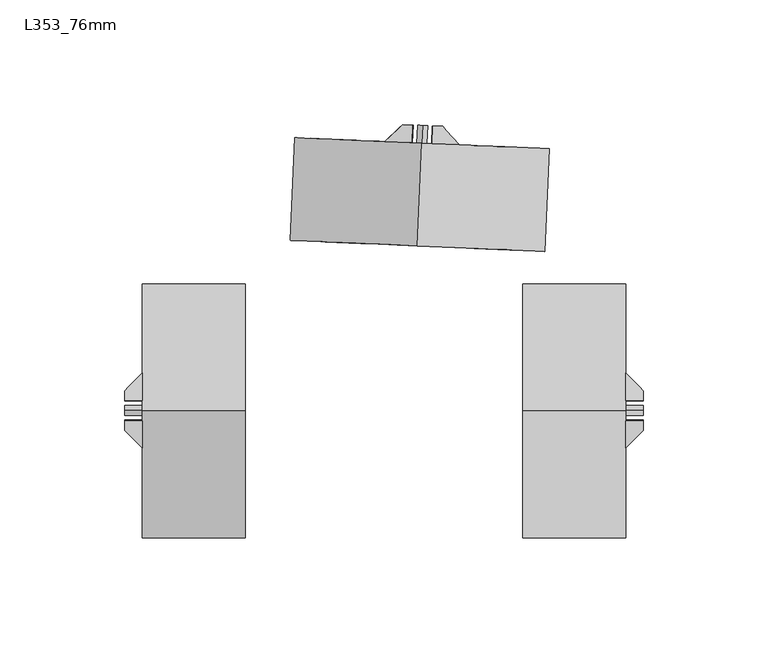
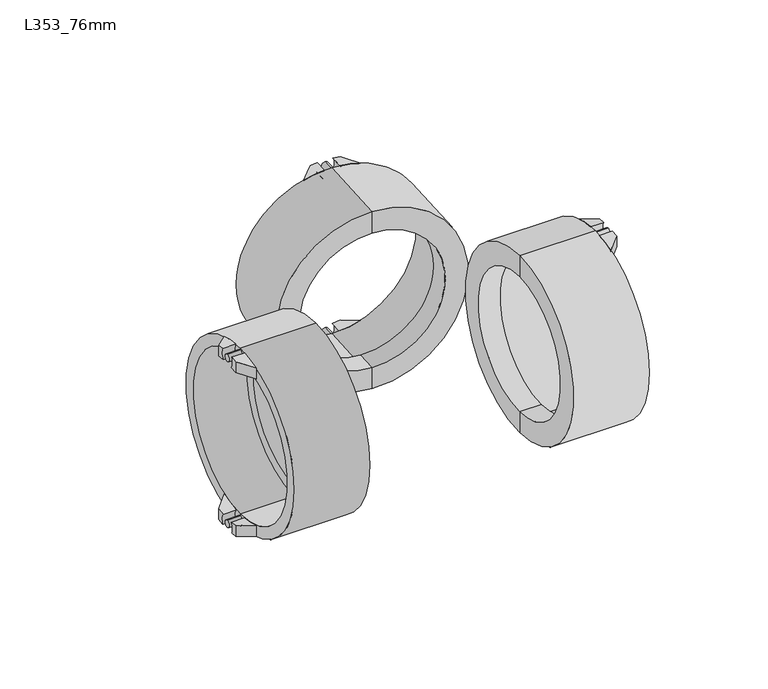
"""IFC4 building model written with IfcOpenShell, lengths in millimetres: pipe fitting geometry, Durapipe_PipeFitting_VulcatheneEnfusion_DoubleBranch_L35 : L353_76mm."""

from ifc_helpers import new_model, si_unit, point, frame, frame_2d, origin, place, context, project, spatial, polyline, circle_curve, ellipse_curve, trimmed, segment, composite_curve, outline, extrude, source, transform, mapped, element, save
from ifc_brep_helpers import plane_surface, cylinder_surface, revolved_surface, advanced_brep


def l353_76mm_47fd45bb(model_context):
    return source(origin(), model_context, "Body", "SolidModel", [
        advanced_brep(
        [(93.3721814, -3.8497437, 44.6844713), (93.3721814, -4.1016367, 50.7344713), (93.3721814, -7.94, 50.2768973), (93.3721814, -7.94, 44.1415779), (86.2721814, -15.0, 48.6395929), (86.2721814, -4.1016367, 50.7344713), (86.2721814, -3.8497437, 44.6844713), (86.2721814, -15.0, 42.2672746)],
        [
            (0, 1, circle_curve(frame((93.3721814, 0.0, 47.875), z_axis=(-1.0, 0.0, 0.0), x_axis=(0.0, 0.0, -1.0)), 5.0)),
            (1, 2, circle_curve(frame((93.3721814, 0.0, 0.0), z_axis=(1.0, 0.0, 0.0), x_axis=(0.0, 0.0, -1.0)), 50.9)),
            (2, 3),
            (3, 0, circle_curve(frame((93.3721814, 0.0, 0.0), z_axis=(-1.0, 0.0, 0.0), x_axis=(0.0, 0.0, -1.0)), 44.85)),
            (4, 5, circle_curve(frame((86.2721814, 0.0, 0.0), z_axis=(-1.0, 0.0, 0.0), x_axis=(0.0, 0.0, -1.0)), 50.9)),
            (5, 6, circle_curve(frame((86.2721814, 0.0, 47.875), z_axis=(1.0, 0.0, 0.0), x_axis=(0.0, 0.0, -1.0)), 5.0)),
            (6, 7, circle_curve(frame((86.2721814, 0.0, 0.0), z_axis=(1.0, 0.0, 0.0), x_axis=(0.0, 0.0, -1.0)), 44.85)),
            (7, 4),
            (6, 0),
            (3, 7, ellipse_curve(frame((101.3571672, 0.0, 0.0), z_axis=(0.705106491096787, -0.7091014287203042, 0.0), x_axis=(-0.7091014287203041, -0.705106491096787, 0.0)), 63.6074133, 44.85)),
            (4, 2, ellipse_curve(frame((101.3571672, 0.0, 0.0), z_axis=(-0.705106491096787, 0.7091014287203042, 0.0), x_axis=(0.7091014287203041, 0.705106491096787, 0.0)), 72.1876775, 50.9)),
            (1, 5),
        ],
        [
            plane_surface(frame((93.3721814, -15.0, 48.6395929), z_axis=(1.0, 0.0, 0.0), x_axis=(0.0, 0.0, -1.0))),
            plane_surface(frame((86.2721814, -15.0, 48.6395929), z_axis=(-1.0, 0.0, 0.0), x_axis=(0.0, 0.0, 1.0))),
            revolved_surface(polyline([(56.25305955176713, 0.0, -44.85), (146.46127484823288, 0.0, -44.85)]), (86.2721814, 0.0, 0.0), (-1.0, 0.0, 0.0)),
            cylinder_surface(frame((86.2721814, 0.0, 0.0), z_axis=(1.0, 0.0, 0.0), x_axis=(0.0, 0.0, -1.0)), 50.9),
            revolved_surface(polyline([(93.3721814, 0.0, 42.875), (86.2721814, 0.0, 42.875)]), (86.2721814, 0.0, 47.875), (1.0, 0.0, 0.0)),
            plane_surface(frame((86.2721814, -15.0, -50.9), z_axis=(0.705106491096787, -0.7091014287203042, 0.0), x_axis=(0.0, 0.0, 1.0))),
        ],
        [
            (0, [[1, 2, 3, 4]]),
            (1, [[5, 6, 7, 8]]),
            (2, [[-7, 9, -4, 10]]),
            (3, [[-5, 11, -2, 12]]),
            (4, [[-1, -9, -6, -12]]),
            (5, [[-3, -11, -8, -10]]),
        ],
    ),
        advanced_brep(
        [(93.3721814, 4.1016367, 50.7344713), (93.3721814, 3.8497437, 44.6844713), (93.3721814, 7.94, 44.1415779), (93.3721814, 7.94, 50.2768973), (86.2721814, 4.1016367, 50.7344713), (86.2721814, 15.0, 48.6395929), (86.2721814, 15.0, 42.2672746), (86.2721814, 3.8497437, 44.6844713)],
        [
            (0, 1, circle_curve(frame((93.3721814, 0.0, 47.875), z_axis=(-1.0, 0.0, 0.0), x_axis=(0.0, 0.0, -1.0)), 5.0)),
            (1, 2, circle_curve(frame((93.3721814, 0.0, 0.0), z_axis=(-1.0, 0.0, 0.0), x_axis=(0.0, 0.0, -1.0)), 44.85)),
            (2, 3),
            (3, 0, circle_curve(frame((93.3721814, 0.0, 0.0), z_axis=(1.0, 0.0, 0.0), x_axis=(0.0, 0.0, -1.0)), 50.9)),
            (4, 5, circle_curve(frame((86.2721814, 0.0, 0.0), z_axis=(-1.0, 0.0, 0.0), x_axis=(0.0, 0.0, -1.0)), 50.9)),
            (5, 6),
            (6, 7, circle_curve(frame((86.2721814, 0.0, 0.0), z_axis=(1.0, 0.0, 0.0), x_axis=(0.0, 0.0, -1.0)), 44.85)),
            (7, 4, circle_curve(frame((86.2721814, 0.0, 47.875), z_axis=(1.0, 0.0, 0.0), x_axis=(0.0, 0.0, -1.0)), 5.0)),
            (6, 2, ellipse_curve(frame((101.3571672, 0.0, 0.0), z_axis=(0.7051064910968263, 0.7091014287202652, 0.0), x_axis=(-0.7091014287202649, 0.7051064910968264, 0.0)), 63.6074133, 44.85)),
            (1, 7),
            (4, 0),
            (3, 5, ellipse_curve(frame((101.3571672, 0.0, 0.0), z_axis=(-0.7051064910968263, -0.7091014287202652, 0.0), x_axis=(0.7091014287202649, -0.7051064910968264, 0.0)), 72.1876775, 50.9)),
        ],
        [
            plane_surface(frame((93.3721814, -15.0, 48.6395929), z_axis=(1.0, 0.0, 0.0), x_axis=(0.0, 0.0, -1.0))),
            plane_surface(frame((86.2721814, -15.0, 48.6395929), z_axis=(-1.0, 0.0, 0.0), x_axis=(0.0, 0.0, 1.0))),
            revolved_surface(polyline([(56.253059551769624, 0.0, -44.85), (146.4612748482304, 0.0, -44.85)]), (86.2721814, 0.0, 0.0), (-1.0, 0.0, 0.0)),
            cylinder_surface(frame((86.2721814, 0.0, 0.0), z_axis=(1.0, 0.0, 0.0), x_axis=(0.0, 0.0, -1.0)), 50.9),
            revolved_surface(polyline([(93.3721814, 0.0, 42.875), (86.2721814, 0.0, 42.875)]), (86.2721814, 0.0, 47.875), (1.0, 0.0, 0.0)),
            plane_surface(frame((93.3721814, 7.94, -50.9), z_axis=(0.7051064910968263, 0.7091014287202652, 0.0), x_axis=(0.0, 0.0, 1.0))),
        ],
        [
            (0, [[1, 2, 3, 4]]),
            (1, [[5, 6, 7, 8]]),
            (2, [[-7, 9, -2, 10]]),
            (3, [[-5, 11, -4, 12]]),
            (4, [[-1, -11, -8, -10]]),
            (5, [[-3, -9, -6, -12]]),
        ],
    ),
        advanced_brep(
        [(93.3721814, -4.1016367, -50.7344713), (93.3721814, -3.8497437, -44.6844713), (93.3721814, -7.94, -44.1415779), (93.3721814, -7.94, -50.2768973), (86.2721814, -4.1016367, -50.7344713), (86.2721814, -15.0, -48.6395929), (86.2721814, -15.0, -42.2672746), (86.2721814, -3.8497437, -44.6844713)],
        [
            (0, 1, circle_curve(frame((93.3721814, 0.0, -47.875), z_axis=(-1.0, 0.0, 0.0), x_axis=(0.0, 0.0, -1.0)), 5.0)),
            (1, 2, circle_curve(frame((93.3721814, 0.0, 0.0), z_axis=(-1.0, 0.0, 0.0), x_axis=(0.0, 0.0, -1.0)), 44.85)),
            (2, 3),
            (3, 0, circle_curve(frame((93.3721814, 0.0, 0.0), z_axis=(1.0, 0.0, 0.0), x_axis=(0.0, 0.0, -1.0)), 50.9)),
            (4, 5, circle_curve(frame((86.2721814, 0.0, 0.0), z_axis=(-1.0, 0.0, 0.0), x_axis=(0.0, 0.0, -1.0)), 50.9)),
            (5, 6),
            (6, 7, circle_curve(frame((86.2721814, 0.0, 0.0), z_axis=(1.0, 0.0, 0.0), x_axis=(0.0, 0.0, -1.0)), 44.85)),
            (7, 4, circle_curve(frame((86.2721814, 0.0, -47.875), z_axis=(1.0, 0.0, 0.0), x_axis=(0.0, 0.0, -1.0)), 5.0)),
            (6, 2, ellipse_curve(frame((101.3571672, 0.0, 0.0), z_axis=(0.705106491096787, -0.7091014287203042, 0.0), x_axis=(-0.7091014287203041, -0.705106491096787, 0.0)), 63.6074133, 44.85)),
            (1, 7),
            (4, 0),
            (3, 5, ellipse_curve(frame((101.3571672, 0.0, 0.0), z_axis=(-0.705106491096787, 0.7091014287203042, 0.0), x_axis=(0.7091014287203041, 0.705106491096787, 0.0)), 72.1876775, 50.9)),
        ],
        [
            plane_surface(frame((93.3721814, -15.0, 48.6395929), z_axis=(1.0, 0.0, 0.0), x_axis=(0.0, 0.0, -1.0))),
            plane_surface(frame((86.2721814, -15.0, 48.6395929), z_axis=(-1.0, 0.0, 0.0), x_axis=(0.0, 0.0, 1.0))),
            revolved_surface(polyline([(56.25305955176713, 0.0, -44.85), (146.46127484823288, 0.0, -44.85)]), (86.2721814, 0.0, 0.0), (-1.0, 0.0, 0.0)),
            cylinder_surface(frame((86.2721814, 0.0, 0.0), z_axis=(1.0, 0.0, 0.0), x_axis=(0.0, 0.0, -1.0)), 50.9),
            revolved_surface(polyline([(93.3721814, 0.0, -52.875), (86.2721814, 0.0, -52.875)]), (86.2721814, 0.0, -47.875), (1.0, 0.0, 0.0)),
            plane_surface(frame((86.2721814, -15.0, -50.9), z_axis=(0.705106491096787, -0.7091014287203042, 0.0), x_axis=(0.0, 0.0, 1.0))),
        ],
        [
            (0, [[1, 2, 3, 4]]),
            (1, [[5, 6, 7, 8]]),
            (2, [[-7, 9, -2, 10]]),
            (3, [[-5, 11, -4, 12]]),
            (4, [[-1, -11, -8, -10]]),
            (5, [[-3, -9, -6, -12]]),
        ],
    ),
        advanced_brep(
        [(93.3721814, 3.8497437, -44.6844713), (93.3721814, 4.1016367, -50.7344713), (93.3721814, 7.94, -50.2768973), (93.3721814, 7.94, -44.1415779), (86.2721814, 15.0, -48.6395929), (86.2721814, 4.1016367, -50.7344713), (86.2721814, 3.8497437, -44.6844713), (86.2721814, 15.0, -42.2672746)],
        [
            (0, 1, circle_curve(frame((93.3721814, 0.0, -47.875), z_axis=(-1.0, 0.0, 0.0), x_axis=(0.0, 0.0, -1.0)), 5.0)),
            (1, 2, circle_curve(frame((93.3721814, 0.0, 0.0), z_axis=(1.0, 0.0, 0.0), x_axis=(0.0, 0.0, -1.0)), 50.9)),
            (2, 3),
            (3, 0, circle_curve(frame((93.3721814, 0.0, 0.0), z_axis=(-1.0, 0.0, 0.0), x_axis=(0.0, 0.0, -1.0)), 44.85)),
            (4, 5, circle_curve(frame((86.2721814, 0.0, 0.0), z_axis=(-1.0, 0.0, 0.0), x_axis=(0.0, 0.0, -1.0)), 50.9)),
            (5, 6, circle_curve(frame((86.2721814, 0.0, -47.875), z_axis=(1.0, 0.0, 0.0), x_axis=(0.0, 0.0, -1.0)), 5.0)),
            (6, 7, circle_curve(frame((86.2721814, 0.0, 0.0), z_axis=(1.0, 0.0, 0.0), x_axis=(0.0, 0.0, -1.0)), 44.85)),
            (7, 4),
            (6, 0),
            (3, 7, ellipse_curve(frame((101.3571672, 0.0, 0.0), z_axis=(0.7051064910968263, 0.7091014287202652, 0.0), x_axis=(-0.7091014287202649, 0.7051064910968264, 0.0)), 63.6074133, 44.85)),
            (4, 2, ellipse_curve(frame((101.3571672, 0.0, 0.0), z_axis=(-0.7051064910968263, -0.7091014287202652, 0.0), x_axis=(0.7091014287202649, -0.7051064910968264, 0.0)), 72.1876775, 50.9)),
            (1, 5),
        ],
        [
            plane_surface(frame((93.3721814, -15.0, 48.6395929), z_axis=(1.0, 0.0, 0.0), x_axis=(0.0, 0.0, -1.0))),
            plane_surface(frame((86.2721814, -15.0, 48.6395929), z_axis=(-1.0, 0.0, 0.0), x_axis=(0.0, 0.0, 1.0))),
            revolved_surface(polyline([(56.253059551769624, 0.0, -44.85), (146.4612748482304, 0.0, -44.85)]), (86.2721814, 0.0, 0.0), (-1.0, 0.0, 0.0)),
            cylinder_surface(frame((86.2721814, 0.0, 0.0), z_axis=(1.0, 0.0, 0.0), x_axis=(0.0, 0.0, -1.0)), 50.9),
            revolved_surface(polyline([(93.3721814, 0.0, -52.875), (86.2721814, 0.0, -52.875)]), (86.2721814, 0.0, -47.875), (1.0, 0.0, 0.0)),
            plane_surface(frame((93.3721814, 7.94, -50.9), z_axis=(0.7051064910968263, 0.7091014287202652, 0.0), x_axis=(0.0, 0.0, 1.0))),
        ],
        [
            (0, [[1, 2, 3, 4]]),
            (1, [[5, 6, 7, 8]]),
            (2, [[-7, 9, -4, 10]]),
            (3, [[-5, 11, -2, 12]]),
            (4, [[-1, -9, -6, -12]]),
            (5, [[-3, -11, -8, -10]]),
        ],
    ),
        extrude(outline(composite_curve([segment(trimmed(circle_curve(frame_2d((0.0, 47.875)), 2.0), [point((0.0, 49.875))], [point((0.0, 45.875))], False, "CARTESIAN"), True, "CONTINUOUS"), segment(trimmed(circle_curve(frame_2d((0.0, 47.875)), 2.0), [point((0.0, 45.875))], [point((0.0, 49.875))], False, "CARTESIAN"), True, "CONTINUOUS")], self_intersect=False)), frame((86.2721814, 0.0, 0.0), z_axis=(1.0, 0.0, 0.0), x_axis=(0.0, 1.0, 0.0)), (0.0, 0.0, 1.0), 7.1),
        extrude(outline(composite_curve([segment(trimmed(circle_curve(frame_2d((0.0, -47.875)), 2.0), [point((0.0, -45.875))], [point((0.0, -49.875))], False, "CARTESIAN"), True, "CONTINUOUS"), segment(trimmed(circle_curve(frame_2d((0.0, -47.875)), 2.0), [point((0.0, -49.875))], [point((0.0, -45.875))], False, "CARTESIAN"), True, "CONTINUOUS")], self_intersect=False)), frame((86.2721814, 0.0, 0.0), z_axis=(1.0, 0.0, 0.0), x_axis=(0.0, 1.0, 0.0)), (0.0, 0.0, 1.0), 7.1),
        advanced_brep(
        [(56.7721814, 0.0, 38.85), (56.7721814, 0.0, -38.85), (56.7721814, 0.0, -44.7), (56.7721814, 0.0, 44.7), (45.0721814, 0.0, 38.85), (45.0721814, 0.0, -38.85), (45.0721814, 0.0, 51.05), (45.0721814, 0.0, -51.05), (86.2721814, 0.0, 51.05), (86.2721814, 0.0, -51.05), (86.2721814, 0.0, 44.7), (86.2721814, 0.0, -44.7)],
        [
            (0, 1, circle_curve(frame((56.7721814, 0.0, 0.0), z_axis=(-1.0, 0.0, 0.0), x_axis=(0.0, 0.0, -1.0)), 38.85)),
            (1, 2),
            (2, 3, circle_curve(frame((56.7721814, 0.0, 0.0), z_axis=(1.0, 0.0, 0.0), x_axis=(0.0, 0.0, -1.0)), 44.7)),
            (3, 0),
            (1, 0, circle_curve(frame((56.7721814, 0.0, 0.0), z_axis=(-1.0, 0.0, 0.0), x_axis=(0.0, 0.0, -1.0)), 38.85)),
            (3, 2, circle_curve(frame((56.7721814, 0.0, 0.0), z_axis=(1.0, 0.0, 0.0), x_axis=(0.0, 0.0, -1.0)), 44.7)),
            (4, 5, circle_curve(frame((45.0721814, 0.0, 0.0), z_axis=(-1.0, 0.0, 0.0), x_axis=(0.0, 0.0, -1.0)), 38.85)),
            (5, 1),
            (0, 4),
            (5, 4, circle_curve(frame((45.0721814, 0.0, 0.0), z_axis=(-1.0, 0.0, 0.0), x_axis=(0.0, 0.0, -1.0)), 38.85)),
            (6, 7, circle_curve(frame((45.0721814, 0.0, 0.0), z_axis=(-1.0, 0.0, 0.0), x_axis=(0.0, 0.0, -1.0)), 51.05)),
            (7, 5),
            (4, 6),
            (7, 6, circle_curve(frame((45.0721814, 0.0, 0.0), z_axis=(-1.0, 0.0, 0.0), x_axis=(0.0, 0.0, -1.0)), 51.05)),
            (8, 9, circle_curve(frame((86.2721814, 0.0, 0.0), z_axis=(-1.0, 0.0, 0.0), x_axis=(0.0, 0.0, -1.0)), 51.05)),
            (9, 7),
            (6, 8),
            (9, 8, circle_curve(frame((86.2721814, 0.0, 0.0), z_axis=(-1.0, 0.0, 0.0), x_axis=(0.0, 0.0, -1.0)), 51.05)),
            (10, 11, circle_curve(frame((86.2721814, 0.0, 0.0), z_axis=(-1.0, 0.0, 0.0), x_axis=(0.0, 0.0, -1.0)), 44.7)),
            (11, 9),
            (8, 10),
            (11, 10, circle_curve(frame((86.2721814, 0.0, 0.0), z_axis=(-1.0, 0.0, 0.0), x_axis=(0.0, 0.0, -1.0)), 44.7)),
            (2, 11),
            (10, 3),
        ],
        [
            plane_surface(frame((56.7721814, 0.0, 0.0), z_axis=(1.0, 0.0, 0.0), x_axis=(0.0, 0.0, -1.0))),
            revolved_surface(polyline([(56.772181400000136, 0.0, -38.85), (45.07218139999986, 0.0, -38.85)]), (2600.2548054, 0.0, 0.0), (1.0, 0.0, 0.0)),
            plane_surface(frame((45.0721814, 0.0, 0.0), z_axis=(-1.0, 0.0, 0.0), x_axis=(0.0, 0.0, -1.0))),
            cylinder_surface(frame((2600.2548054, 0.0, 0.0), z_axis=(1.0, 0.0, 0.0), x_axis=(0.0, 0.0, -1.0)), 51.05),
            plane_surface(frame((86.2721814, 0.0, 0.0), z_axis=(1.0, 0.0, 0.0), x_axis=(0.0, 0.0, -1.0))),
            revolved_surface(polyline([(86.27218140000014, 0.0, -44.7), (56.772181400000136, 0.0, -44.7)]), (2600.2548054, 0.0, 0.0), (1.0, 0.0, 0.0)),
        ],
        [
            (0, [[1, 2, 3, 4]]),
            (0, [[5, -4, 6, -2]]),
            (1, [[7, 8, -1, 9]]),
            (1, [[10, -9, -5, -8]]),
            (2, [[11, 12, -7, 13]]),
            (2, [[14, -13, -10, -12]]),
            (3, [[15, 16, -11, 17]]),
            (3, [[18, -17, -14, -16]]),
            (4, [[19, 20, -15, 21]]),
            (4, [[22, -21, -18, -20]]),
            (5, [[-3, 23, -19, 24]]),
            (5, [[-6, -24, -22, -23]]),
        ],
    ),
        advanced_brep(
        [(-114.4278186, -3.8497437, -44.6844713), (-114.4278186, -4.1016367, -50.7344713), (-114.4278186, -7.94, -50.2768973), (-114.4278186, -7.94, -44.1415779), (-107.3278186, -15.0, -48.6395929), (-107.3278186, -4.1016367, -50.7344713), (-107.3278186, -3.8497437, -44.6844713), (-107.3278186, -15.0, -42.2672746)],
        [
            (0, 1, circle_curve(frame((-114.4278186, 0.0, -47.875), z_axis=(1.0, 0.0, 0.0), x_axis=(0.0, 0.0, 1.0)), 5.0)),
            (1, 2, circle_curve(frame((-114.4278186, 0.0, 0.0), z_axis=(-1.0, 0.0, 0.0), x_axis=(0.0, 0.0, 1.0)), 50.9)),
            (2, 3),
            (3, 0, circle_curve(frame((-114.4278186, 0.0, 0.0), z_axis=(1.0, 0.0, 0.0), x_axis=(0.0, 0.0, 1.0)), 44.85)),
            (4, 5, circle_curve(frame((-107.3278186, 0.0, 0.0), z_axis=(1.0, 0.0, 0.0), x_axis=(0.0, 0.0, 1.0)), 50.9)),
            (5, 6, circle_curve(frame((-107.3278186, 0.0, -47.875), z_axis=(-1.0, 0.0, 0.0), x_axis=(0.0, 0.0, 1.0)), 5.0)),
            (6, 7, circle_curve(frame((-107.3278186, 0.0, 0.0), z_axis=(-1.0, 0.0, 0.0), x_axis=(0.0, 0.0, 1.0)), 44.85)),
            (7, 4),
            (6, 0),
            (3, 7, ellipse_curve(frame((-122.4128045, 0.0, 0.0), z_axis=(-0.705106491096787, -0.7091014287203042, 0.0), x_axis=(0.7091014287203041, -0.7051064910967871, 0.0)), 63.6074133, 44.85)),
            (4, 2, ellipse_curve(frame((-122.4128045, 0.0, 0.0), z_axis=(0.705106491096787, 0.7091014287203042, 0.0), x_axis=(-0.7091014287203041, 0.7051064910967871, 0.0)), 72.1876775, 50.9)),
            (1, 5),
        ],
        [
            plane_surface(frame((-114.4278186, -15.0, -48.6395929), z_axis=(-1.0, 0.0, 0.0), x_axis=(0.0, 0.0, 1.0))),
            plane_surface(frame((-107.3278186, -15.0, -48.6395929), z_axis=(1.0, 0.0, 0.0), x_axis=(0.0, 0.0, -1.0))),
            revolved_surface(polyline([(-77.30869685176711, 0.0, 44.85), (-167.51691214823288, 0.0, 44.85)]), (-107.3278186, 0.0, 0.0), (1.0, 0.0, 0.0)),
            cylinder_surface(frame((-107.3278186, 0.0, 0.0), z_axis=(-1.0, 0.0, 0.0), x_axis=(0.0, 0.0, 1.0)), 50.9),
            revolved_surface(polyline([(-114.4278186, 0.0, -42.875), (-107.3278186, 0.0, -42.875)]), (-107.3278186, 0.0, -47.875), (-1.0, 0.0, 0.0)),
            plane_surface(frame((-107.3278186, -15.0, 50.9), z_axis=(-0.705106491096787, -0.7091014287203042, 0.0), x_axis=(0.0, 0.0, -1.0))),
        ],
        [
            (0, [[1, 2, 3, 4]]),
            (1, [[5, 6, 7, 8]]),
            (2, [[-7, 9, -4, 10]]),
            (3, [[-5, 11, -2, 12]]),
            (4, [[-1, -9, -6, -12]]),
            (5, [[-3, -11, -8, -10]]),
        ],
    ),
        advanced_brep(
        [(-114.4278186, 4.1016367, -50.7344713), (-114.4278186, 3.8497437, -44.6844713), (-114.4278186, 7.94, -44.1415779), (-114.4278186, 7.94, -50.2768973), (-107.3278186, 4.1016367, -50.7344713), (-107.3278186, 15.0, -48.6395929), (-107.3278186, 15.0, -42.2672746), (-107.3278186, 3.8497437, -44.6844713)],
        [
            (0, 1, circle_curve(frame((-114.4278186, 0.0, -47.875), z_axis=(1.0, 0.0, 0.0), x_axis=(0.0, 0.0, 1.0)), 5.0)),
            (1, 2, circle_curve(frame((-114.4278186, 0.0, 0.0), z_axis=(1.0, 0.0, 0.0), x_axis=(0.0, 0.0, 1.0)), 44.85)),
            (2, 3),
            (3, 0, circle_curve(frame((-114.4278186, 0.0, 0.0), z_axis=(-1.0, 0.0, 0.0), x_axis=(0.0, 0.0, 1.0)), 50.9)),
            (4, 5, circle_curve(frame((-107.3278186, 0.0, 0.0), z_axis=(1.0, 0.0, 0.0), x_axis=(0.0, 0.0, 1.0)), 50.9)),
            (5, 6),
            (6, 7, circle_curve(frame((-107.3278186, 0.0, 0.0), z_axis=(-1.0, 0.0, 0.0), x_axis=(0.0, 0.0, 1.0)), 44.85)),
            (7, 4, circle_curve(frame((-107.3278186, 0.0, -47.875), z_axis=(-1.0, 0.0, 0.0), x_axis=(0.0, 0.0, 1.0)), 5.0)),
            (6, 2, ellipse_curve(frame((-122.4128045, 0.0, 0.0), z_axis=(-0.7051064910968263, 0.7091014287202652, 0.0), x_axis=(0.7091014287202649, 0.7051064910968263, 0.0)), 63.6074133, 44.85)),
            (1, 7),
            (4, 0),
            (3, 5, ellipse_curve(frame((-122.4128045, 0.0, 0.0), z_axis=(0.7051064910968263, -0.7091014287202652, 0.0), x_axis=(-0.7091014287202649, -0.7051064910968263, 0.0)), 72.1876775, 50.9)),
        ],
        [
            plane_surface(frame((-114.4278186, -15.0, -48.6395929), z_axis=(-1.0, 0.0, 0.0), x_axis=(0.0, 0.0, 1.0))),
            plane_surface(frame((-107.3278186, -15.0, -48.6395929), z_axis=(1.0, 0.0, 0.0), x_axis=(0.0, 0.0, -1.0))),
            revolved_surface(polyline([(-77.30869685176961, 0.0, 44.85), (-167.51691214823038, 0.0, 44.85)]), (-107.3278186, 0.0, 0.0), (1.0, 0.0, 0.0)),
            cylinder_surface(frame((-107.3278186, 0.0, 0.0), z_axis=(-1.0, 0.0, 0.0), x_axis=(0.0, 0.0, 1.0)), 50.9),
            revolved_surface(polyline([(-114.4278186, 0.0, -42.875), (-107.3278186, 0.0, -42.875)]), (-107.3278186, 0.0, -47.875), (-1.0, 0.0, 0.0)),
            plane_surface(frame((-114.4278186, 7.94, 50.9), z_axis=(-0.7051064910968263, 0.7091014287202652, 0.0), x_axis=(0.0, 0.0, -1.0))),
        ],
        [
            (0, [[1, 2, 3, 4]]),
            (1, [[5, 6, 7, 8]]),
            (2, [[-7, 9, -2, 10]]),
            (3, [[-5, 11, -4, 12]]),
            (4, [[-1, -11, -8, -10]]),
            (5, [[-3, -9, -6, -12]]),
        ],
    ),
        advanced_brep(
        [(-114.4278186, -4.1016367, 50.7344713), (-114.4278186, -3.8497437, 44.6844713), (-114.4278186, -7.94, 44.1415779), (-114.4278186, -7.94, 50.2768973), (-107.3278186, -4.1016367, 50.7344713), (-107.3278186, -15.0, 48.6395929), (-107.3278186, -15.0, 42.2672746), (-107.3278186, -3.8497437, 44.6844713)],
        [
            (0, 1, circle_curve(frame((-114.4278186, 0.0, 47.875), z_axis=(1.0, 0.0, 0.0), x_axis=(0.0, 0.0, 1.0)), 5.0)),
            (1, 2, circle_curve(frame((-114.4278186, 0.0, 0.0), z_axis=(1.0, 0.0, 0.0), x_axis=(0.0, 0.0, 1.0)), 44.85)),
            (2, 3),
            (3, 0, circle_curve(frame((-114.4278186, 0.0, 0.0), z_axis=(-1.0, 0.0, 0.0), x_axis=(0.0, 0.0, 1.0)), 50.9)),
            (4, 5, circle_curve(frame((-107.3278186, 0.0, 0.0), z_axis=(1.0, 0.0, 0.0), x_axis=(0.0, 0.0, 1.0)), 50.9)),
            (5, 6),
            (6, 7, circle_curve(frame((-107.3278186, 0.0, 0.0), z_axis=(-1.0, 0.0, 0.0), x_axis=(0.0, 0.0, 1.0)), 44.85)),
            (7, 4, circle_curve(frame((-107.3278186, 0.0, 47.875), z_axis=(-1.0, 0.0, 0.0), x_axis=(0.0, 0.0, 1.0)), 5.0)),
            (6, 2, ellipse_curve(frame((-122.4128045, 0.0, 0.0), z_axis=(-0.705106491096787, -0.7091014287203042, 0.0), x_axis=(0.7091014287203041, -0.7051064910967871, 0.0)), 63.6074133, 44.85)),
            (1, 7),
            (4, 0),
            (3, 5, ellipse_curve(frame((-122.4128045, 0.0, 0.0), z_axis=(0.705106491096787, 0.7091014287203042, 0.0), x_axis=(-0.7091014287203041, 0.7051064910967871, 0.0)), 72.1876775, 50.9)),
        ],
        [
            plane_surface(frame((-114.4278186, -15.0, -48.6395929), z_axis=(-1.0, 0.0, 0.0), x_axis=(0.0, 0.0, 1.0))),
            plane_surface(frame((-107.3278186, -15.0, -48.6395929), z_axis=(1.0, 0.0, 0.0), x_axis=(0.0, 0.0, -1.0))),
            revolved_surface(polyline([(-77.30869685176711, 0.0, 44.85), (-167.51691214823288, 0.0, 44.85)]), (-107.3278186, 0.0, 0.0), (1.0, 0.0, 0.0)),
            cylinder_surface(frame((-107.3278186, 0.0, 0.0), z_axis=(-1.0, 0.0, 0.0), x_axis=(0.0, 0.0, 1.0)), 50.9),
            revolved_surface(polyline([(-114.4278186, 0.0, 52.875), (-107.3278186, 0.0, 52.875)]), (-107.3278186, 0.0, 47.875), (-1.0, 0.0, 0.0)),
            plane_surface(frame((-107.3278186, -15.0, 50.9), z_axis=(-0.705106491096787, -0.7091014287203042, 0.0), x_axis=(0.0, 0.0, -1.0))),
        ],
        [
            (0, [[1, 2, 3, 4]]),
            (1, [[5, 6, 7, 8]]),
            (2, [[-7, 9, -2, 10]]),
            (3, [[-5, 11, -4, 12]]),
            (4, [[-1, -11, -8, -10]]),
            (5, [[-3, -9, -6, -12]]),
        ],
    ),
        advanced_brep(
        [(-114.4278186, 3.8497437, 44.6844713), (-114.4278186, 4.1016367, 50.7344713), (-114.4278186, 7.94, 50.2768973), (-114.4278186, 7.94, 44.1415779), (-107.3278186, 15.0, 48.6395929), (-107.3278186, 4.1016367, 50.7344713), (-107.3278186, 3.8497437, 44.6844713), (-107.3278186, 15.0, 42.2672746)],
        [
            (0, 1, circle_curve(frame((-114.4278186, 0.0, 47.875), z_axis=(1.0, 0.0, 0.0), x_axis=(0.0, 0.0, 1.0)), 5.0)),
            (1, 2, circle_curve(frame((-114.4278186, 0.0, 0.0), z_axis=(-1.0, 0.0, 0.0), x_axis=(0.0, 0.0, 1.0)), 50.9)),
            (2, 3),
            (3, 0, circle_curve(frame((-114.4278186, 0.0, 0.0), z_axis=(1.0, 0.0, 0.0), x_axis=(0.0, 0.0, 1.0)), 44.85)),
            (4, 5, circle_curve(frame((-107.3278186, 0.0, 0.0), z_axis=(1.0, 0.0, 0.0), x_axis=(0.0, 0.0, 1.0)), 50.9)),
            (5, 6, circle_curve(frame((-107.3278186, 0.0, 47.875), z_axis=(-1.0, 0.0, 0.0), x_axis=(0.0, 0.0, 1.0)), 5.0)),
            (6, 7, circle_curve(frame((-107.3278186, 0.0, 0.0), z_axis=(-1.0, 0.0, 0.0), x_axis=(0.0, 0.0, 1.0)), 44.85)),
            (7, 4),
            (6, 0),
            (3, 7, ellipse_curve(frame((-122.4128045, 0.0, 0.0), z_axis=(-0.7051064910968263, 0.7091014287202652, 0.0), x_axis=(0.7091014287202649, 0.7051064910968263, 0.0)), 63.6074133, 44.85)),
            (4, 2, ellipse_curve(frame((-122.4128045, 0.0, 0.0), z_axis=(0.7051064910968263, -0.7091014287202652, 0.0), x_axis=(-0.7091014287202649, -0.7051064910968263, 0.0)), 72.1876775, 50.9)),
            (1, 5),
        ],
        [
            plane_surface(frame((-114.4278186, -15.0, -48.6395929), z_axis=(-1.0, 0.0, 0.0), x_axis=(0.0, 0.0, 1.0))),
            plane_surface(frame((-107.3278186, -15.0, -48.6395929), z_axis=(1.0, 0.0, 0.0), x_axis=(0.0, 0.0, -1.0))),
            revolved_surface(polyline([(-77.30869685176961, 0.0, 44.85), (-167.51691214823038, 0.0, 44.85)]), (-107.3278186, 0.0, 0.0), (1.0, 0.0, 0.0)),
            cylinder_surface(frame((-107.3278186, 0.0, 0.0), z_axis=(-1.0, 0.0, 0.0), x_axis=(0.0, 0.0, 1.0)), 50.9),
            revolved_surface(polyline([(-114.4278186, 0.0, 52.875), (-107.3278186, 0.0, 52.875)]), (-107.3278186, 0.0, 47.875), (-1.0, 0.0, 0.0)),
            plane_surface(frame((-114.4278186, 7.94, 50.9), z_axis=(-0.7051064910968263, 0.7091014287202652, 0.0), x_axis=(0.0, 0.0, -1.0))),
        ],
        [
            (0, [[1, 2, 3, 4]]),
            (1, [[5, 6, 7, 8]]),
            (2, [[-7, 9, -4, 10]]),
            (3, [[-5, 11, -2, 12]]),
            (4, [[-1, -9, -6, -12]]),
            (5, [[-3, -11, -8, -10]]),
        ],
    ),
        extrude(outline(composite_curve([segment(trimmed(circle_curve(frame_2d((0.0, -47.875)), 2.0), [point((0.0, -49.875))], [point((0.0, -45.875))], False, "CARTESIAN"), True, "CONTINUOUS"), segment(trimmed(circle_curve(frame_2d((0.0, -47.875)), 2.0), [point((0.0, -45.875))], [point((0.0, -49.875))], False, "CARTESIAN"), True, "CONTINUOUS")], self_intersect=False)), frame((-114.4278186, 0.0, 0.0), z_axis=(1.0, 0.0, 0.0), x_axis=(0.0, 1.0, 0.0)), (0.0, 0.0, 1.0), 7.1),
        extrude(outline(composite_curve([segment(trimmed(circle_curve(frame_2d((0.0, 47.875)), 2.0), [point((0.0, 45.875))], [point((0.0, 49.875))], False, "CARTESIAN"), True, "CONTINUOUS"), segment(trimmed(circle_curve(frame_2d((0.0, 47.875)), 2.0), [point((0.0, 49.875))], [point((0.0, 45.875))], False, "CARTESIAN"), True, "CONTINUOUS")], self_intersect=False)), frame((-114.4278186, 0.0, 0.0), z_axis=(1.0, 0.0, 0.0), x_axis=(0.0, 1.0, 0.0)), (0.0, 0.0, 1.0), 7.1),
        advanced_brep(
        [(-77.8278186, 0.0, -38.85), (-77.8278186, 0.0, 38.85), (-77.8278186, 0.0, 44.7), (-77.8278186, 0.0, -44.7), (-66.1278186, 0.0, -38.85), (-66.1278186, 0.0, 38.85), (-66.1278186, 0.0, -51.05), (-66.1278186, 0.0, 51.05), (-107.3278186, 0.0, -51.05), (-107.3278186, 0.0, 51.05), (-107.3278186, 0.0, -44.7), (-107.3278186, 0.0, 44.7)],
        [
            (0, 1, circle_curve(frame((-77.8278186, 0.0, 0.0), z_axis=(1.0, 0.0, 0.0), x_axis=(0.0, 0.0, 1.0)), 38.85)),
            (1, 2),
            (2, 3, circle_curve(frame((-77.8278186, 0.0, 0.0), z_axis=(-1.0, 0.0, 0.0), x_axis=(0.0, 0.0, 1.0)), 44.7)),
            (3, 0),
            (1, 0, circle_curve(frame((-77.8278186, 0.0, 0.0), z_axis=(1.0, 0.0, 0.0), x_axis=(0.0, 0.0, 1.0)), 38.85)),
            (3, 2, circle_curve(frame((-77.8278186, 0.0, 0.0), z_axis=(-1.0, 0.0, 0.0), x_axis=(0.0, 0.0, 1.0)), 44.7)),
            (4, 5, circle_curve(frame((-66.1278186, 0.0, 0.0), z_axis=(1.0, 0.0, 0.0), x_axis=(0.0, 0.0, 1.0)), 38.85)),
            (5, 1),
            (0, 4),
            (5, 4, circle_curve(frame((-66.1278186, 0.0, 0.0), z_axis=(1.0, 0.0, 0.0), x_axis=(0.0, 0.0, 1.0)), 38.85)),
            (6, 7, circle_curve(frame((-66.1278186, 0.0, 0.0), z_axis=(1.0, 0.0, 0.0), x_axis=(0.0, 0.0, 1.0)), 51.05)),
            (7, 5),
            (4, 6),
            (7, 6, circle_curve(frame((-66.1278186, 0.0, 0.0), z_axis=(1.0, 0.0, 0.0), x_axis=(0.0, 0.0, 1.0)), 51.05)),
            (8, 9, circle_curve(frame((-107.3278186, 0.0, 0.0), z_axis=(1.0, 0.0, 0.0), x_axis=(0.0, 0.0, 1.0)), 51.05)),
            (9, 7),
            (6, 8),
            (9, 8, circle_curve(frame((-107.3278186, 0.0, 0.0), z_axis=(1.0, 0.0, 0.0), x_axis=(0.0, 0.0, 1.0)), 51.05)),
            (10, 11, circle_curve(frame((-107.3278186, 0.0, 0.0), z_axis=(1.0, 0.0, 0.0), x_axis=(0.0, 0.0, 1.0)), 44.7)),
            (11, 9),
            (8, 10),
            (11, 10, circle_curve(frame((-107.3278186, 0.0, 0.0), z_axis=(1.0, 0.0, 0.0), x_axis=(0.0, 0.0, 1.0)), 44.7)),
            (2, 11),
            (10, 3),
        ],
        [
            plane_surface(frame((-77.8278186, 0.0, 0.0), z_axis=(-1.0, 0.0, 0.0), x_axis=(0.0, 0.0, 1.0))),
            revolved_surface(polyline([(-77.82781859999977, 0.0, 38.85), (-66.12781859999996, 0.0, 38.85)]), (-2621.3104427, 0.0, 0.0), (-1.0, 0.0, 0.0)),
            plane_surface(frame((-66.1278186, 0.0, 0.0), z_axis=(1.0, 0.0, 0.0), x_axis=(0.0, 0.0, 1.0))),
            cylinder_surface(frame((-2621.3104427, 0.0, 0.0), z_axis=(-1.0, 0.0, 0.0), x_axis=(0.0, 0.0, 1.0)), 51.05),
            plane_surface(frame((-107.3278186, 0.0, 0.0), z_axis=(-1.0, 0.0, 0.0), x_axis=(0.0, 0.0, 1.0))),
            revolved_surface(polyline([(-107.32781859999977, 0.0, 44.7), (-77.82781859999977, 0.0, 44.7)]), (-2621.3104427, 0.0, 0.0), (-1.0, 0.0, 0.0)),
        ],
        [
            (0, [[1, 2, 3, 4]]),
            (0, [[5, -4, 6, -2]]),
            (1, [[7, 8, -1, 9]]),
            (1, [[10, -9, -5, -8]]),
            (2, [[11, 12, -7, 13]]),
            (2, [[14, -13, -10, -12]]),
            (3, [[15, 16, -11, 17]]),
            (3, [[18, -17, -14, -16]]),
            (4, [[19, 20, -15, 21]]),
            (4, [[22, -21, -18, -20]]),
            (5, [[-3, 23, -19, 24]]),
            (5, [[-6, -24, -22, -23]]),
        ],
    ),
        advanced_brep(
        [(1.1451918, 114.4868322, -44.6844713), (0.8935384, 114.4978196, -50.7344713), (-2.9411715, 114.6652467, -50.2768973), (-2.9411715, 114.6652467, -44.1415779), (-10.3041496, 107.8799572, -48.6395929), (0.5838408, 107.4045772, -50.7344713), (0.8354941, 107.3935898, -44.6844713), (-10.3041496, 107.8799572, -42.2672746)],
        [
            (0, 1, circle_curve(frame((4.9912713, 114.3189087, -47.875), z_axis=(-0.04361938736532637, -0.9990482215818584, 0.0), x_axis=(0.0, 0.0, 1.0)), 5.0)),
            (1, 2, circle_curve(frame((4.9912713, 114.3189087, 0.0), z_axis=(0.04361938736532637, 0.9990482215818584, 0.0), x_axis=(0.0, 0.0, 1.0)), 50.9)),
            (2, 3),
            (3, 0, circle_curve(frame((4.9912713, 114.3189087, 0.0), z_axis=(-0.04361938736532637, -0.9990482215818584, 0.0), x_axis=(0.0, 0.0, 1.0)), 44.85)),
            (4, 5, circle_curve(frame((4.6815737, 107.2256663, 0.0), z_axis=(-0.04361938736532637, -0.9990482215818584, 0.0), x_axis=(0.0, 0.0, 1.0)), 50.9)),
            (5, 6, circle_curve(frame((4.6815737, 107.2256663, -47.875), z_axis=(0.04361938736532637, 0.9990482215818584, 0.0), x_axis=(0.0, 0.0, 1.0)), 5.0)),
            (6, 7, circle_curve(frame((4.6815737, 107.2256663, 0.0), z_axis=(0.04361938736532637, 0.9990482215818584, 0.0), x_axis=(0.0, 0.0, 1.0)), 44.85)),
            (7, 4),
            (6, 0),
            (3, 7, ellipse_curve(frame((5.3395715, 122.2962946, 0.0), z_axis=(-0.6776702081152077, 0.735365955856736, 0.0), x_axis=(-0.7353659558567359, -0.6776702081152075, 0.0)), 63.6074133, 44.85)),
            (4, 2, ellipse_curve(frame((5.3395715, 122.2962946, 0.0), z_axis=(0.6776702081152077, -0.735365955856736, 0.0), x_axis=(0.7353659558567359, 0.6776702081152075, 0.0)), 72.1876775, 50.9)),
            (1, 5),
        ],
        [
            plane_surface(frame((-9.994452, 114.9731995, -48.6395929), z_axis=(0.04361938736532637, 0.9990482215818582, 0.0), x_axis=(0.0, 0.0, 1.0))),
            plane_surface(frame((-10.3041496, 107.8799572, -48.6395929), z_axis=(-0.04361938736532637, -0.9990482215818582, 0.0), x_axis=(0.0, 0.0, -1.0))),
            revolved_surface(polyline([(3.3721579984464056, 77.23511606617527, 44.85), (7.306985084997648, 167.35747313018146, 44.85)]), (4.6815737, 107.2256663, 0.0), (-0.04361938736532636, -0.9990482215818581, 0.0)),
            cylinder_surface(frame((4.6815737, 107.2256663, 0.0), z_axis=(0.04361938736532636, 0.9990482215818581, 0.0), x_axis=(0.0, 0.0, 1.0)), 50.9),
            revolved_surface(polyline([(4.991271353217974, 114.31890874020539, -42.875), (4.6815737, 107.2256663, -42.875)]), (4.6815737, 107.2256663, -47.875), (0.04361938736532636, 0.9990482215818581, 0.0)),
            plane_surface(frame((-10.3041496, 107.8799572, 50.9), z_axis=(-0.6776702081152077, 0.735365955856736, 0.0), x_axis=(0.0, 0.0, -1.0))),
        ],
        [
            (0, [[1, 2, 3, 4]]),
            (1, [[5, 6, 7, 8]]),
            (2, [[-7, 9, -4, 10]]),
            (3, [[-5, 11, -2, 12]]),
            (4, [[-1, -9, -6, -12]]),
            (5, [[-3, -11, -8, -10]]),
        ],
    ),
        advanced_brep(
        [(9.0890042, 114.1399978, -50.7344713), (8.8373509, 114.1509853, -44.6844713), (12.9237142, 113.9725708, -44.1415779), (12.9237142, 113.9725708, -50.2768973), (8.7793066, 107.0467555, -50.7344713), (19.667297, 106.5713755, -48.6395929), (19.667297, 106.5713755, -42.2672746), (8.5276533, 107.0577429, -44.6844713)],
        [
            (0, 1, circle_curve(frame((4.9912713, 114.3189087, -47.875), z_axis=(-0.04361938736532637, -0.9990482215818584, 0.0), x_axis=(0.0, 0.0, 1.0)), 5.0)),
            (1, 2, circle_curve(frame((4.9912713, 114.3189087, 0.0), z_axis=(-0.04361938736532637, -0.9990482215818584, 0.0), x_axis=(0.0, 0.0, 1.0)), 44.85)),
            (2, 3),
            (3, 0, circle_curve(frame((4.9912713, 114.3189087, 0.0), z_axis=(0.04361938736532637, 0.9990482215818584, 0.0), x_axis=(0.0, 0.0, 1.0)), 50.9)),
            (4, 5, circle_curve(frame((4.6815737, 107.2256663, 0.0), z_axis=(-0.04361938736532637, -0.9990482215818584, 0.0), x_axis=(0.0, 0.0, 1.0)), 50.9)),
            (5, 6),
            (6, 7, circle_curve(frame((4.6815737, 107.2256663, 0.0), z_axis=(0.04361938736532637, 0.9990482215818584, 0.0), x_axis=(0.0, 0.0, 1.0)), 44.85)),
            (7, 4, circle_curve(frame((4.6815737, 107.2256663, -47.875), z_axis=(0.04361938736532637, 0.9990482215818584, 0.0), x_axis=(0.0, 0.0, 1.0)), 5.0)),
            (6, 2, ellipse_curve(frame((5.3395715, 122.2962946, 0.0), z_axis=(0.7391828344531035, 0.6735048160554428, 0.0), x_axis=(0.6735048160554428, -0.7391828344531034, 0.0)), 63.6074133, 44.85)),
            (1, 7),
            (4, 0),
            (3, 5, ellipse_curve(frame((5.3395715, 122.2962946, 0.0), z_axis=(-0.7391828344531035, -0.6735048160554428, 0.0), x_axis=(-0.6735048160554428, 0.7391828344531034, 0.0)), 72.1876775, 50.9)),
        ],
        [
            plane_surface(frame((-9.994452, 114.9731995, -48.6395929), z_axis=(0.04361938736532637, 0.9990482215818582, 0.0), x_axis=(0.0, 0.0, 1.0))),
            plane_surface(frame((-10.3041496, 107.8799572, -48.6395929), z_axis=(-0.04361938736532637, -0.9990482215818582, 0.0), x_axis=(0.0, 0.0, -1.0))),
            revolved_surface(polyline([(3.3721579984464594, 77.2351160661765, 44.85), (7.306985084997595, 167.35747313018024, 44.85)]), (4.6815737, 107.2256663, 0.0), (-0.04361938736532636, -0.9990482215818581, 0.0)),
            cylinder_surface(frame((4.6815737, 107.2256663, 0.0), z_axis=(0.04361938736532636, 0.9990482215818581, 0.0), x_axis=(0.0, 0.0, 1.0)), 50.9),
            revolved_surface(polyline([(4.991271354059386, 114.31890875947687, -42.875), (4.6815737, 107.2256663, -42.875)]), (4.6815737, 107.2256663, -47.875), (0.04361938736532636, 0.9990482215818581, 0.0)),
            plane_surface(frame((12.9237142, 113.9725708, 50.9), z_axis=(0.7391828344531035, 0.6735048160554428, 0.0), x_axis=(0.0, 0.0, -1.0))),
        ],
        [
            (0, [[1, 2, 3, 4]]),
            (1, [[5, 6, 7, 8]]),
            (2, [[-7, 9, -2, 10]]),
            (3, [[-5, 11, -4, 12]]),
            (4, [[-1, -11, -8, -10]]),
            (5, [[-3, -9, -6, -12]]),
        ],
    ),
        advanced_brep(
        [(0.8935384, 114.4978196, 50.7344713), (1.1451918, 114.4868322, 44.6844713), (-2.9411715, 114.6652467, 44.1415779), (-2.9411715, 114.6652467, 50.2768973), (0.5838408, 107.4045772, 50.7344713), (-10.3041496, 107.8799572, 48.6395929), (-10.3041496, 107.8799572, 42.2672746), (0.8354941, 107.3935898, 44.6844713)],
        [
            (0, 1, circle_curve(frame((4.9912713, 114.3189087, 47.875), z_axis=(-0.04361938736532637, -0.9990482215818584, 0.0), x_axis=(0.0, 0.0, 1.0)), 5.0)),
            (1, 2, circle_curve(frame((4.9912713, 114.3189087, 0.0), z_axis=(-0.04361938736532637, -0.9990482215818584, 0.0), x_axis=(0.0, 0.0, 1.0)), 44.85)),
            (2, 3),
            (3, 0, circle_curve(frame((4.9912713, 114.3189087, 0.0), z_axis=(0.04361938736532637, 0.9990482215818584, 0.0), x_axis=(0.0, 0.0, 1.0)), 50.9)),
            (4, 5, circle_curve(frame((4.6815737, 107.2256663, 0.0), z_axis=(-0.04361938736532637, -0.9990482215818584, 0.0), x_axis=(0.0, 0.0, 1.0)), 50.9)),
            (5, 6),
            (6, 7, circle_curve(frame((4.6815737, 107.2256663, 0.0), z_axis=(0.04361938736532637, 0.9990482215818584, 0.0), x_axis=(0.0, 0.0, 1.0)), 44.85)),
            (7, 4, circle_curve(frame((4.6815737, 107.2256663, 47.875), z_axis=(0.04361938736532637, 0.9990482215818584, 0.0), x_axis=(0.0, 0.0, 1.0)), 5.0)),
            (6, 2, ellipse_curve(frame((5.3395715, 122.2962946, 0.0), z_axis=(-0.6776702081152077, 0.735365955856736, 0.0), x_axis=(-0.7353659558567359, -0.6776702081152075, 0.0)), 63.6074133, 44.85)),
            (1, 7),
            (4, 0),
            (3, 5, ellipse_curve(frame((5.3395715, 122.2962946, 0.0), z_axis=(0.6776702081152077, -0.735365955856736, 0.0), x_axis=(0.7353659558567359, 0.6776702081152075, 0.0)), 72.1876775, 50.9)),
        ],
        [
            plane_surface(frame((-9.994452, 114.9731995, -48.6395929), z_axis=(0.04361938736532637, 0.9990482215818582, 0.0), x_axis=(0.0, 0.0, 1.0))),
            plane_surface(frame((-10.3041496, 107.8799572, -48.6395929), z_axis=(-0.04361938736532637, -0.9990482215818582, 0.0), x_axis=(0.0, 0.0, -1.0))),
            revolved_surface(polyline([(3.3721579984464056, 77.23511606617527, 44.85), (7.306985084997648, 167.35747313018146, 44.85)]), (4.6815737, 107.2256663, 0.0), (-0.04361938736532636, -0.9990482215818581, 0.0)),
            cylinder_surface(frame((4.6815737, 107.2256663, 0.0), z_axis=(0.04361938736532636, 0.9990482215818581, 0.0), x_axis=(0.0, 0.0, 1.0)), 50.9),
            revolved_surface(polyline([(4.991271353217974, 114.31890874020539, 52.875), (4.6815737, 107.2256663, 52.875)]), (4.6815737, 107.2256663, 47.875), (0.04361938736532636, 0.9990482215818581, 0.0)),
            plane_surface(frame((-10.3041496, 107.8799572, 50.9), z_axis=(-0.6776702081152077, 0.735365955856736, 0.0), x_axis=(0.0, 0.0, -1.0))),
        ],
        [
            (0, [[1, 2, 3, 4]]),
            (1, [[5, 6, 7, 8]]),
            (2, [[-7, 9, -2, 10]]),
            (3, [[-5, 11, -4, 12]]),
            (4, [[-1, -11, -8, -10]]),
            (5, [[-3, -9, -6, -12]]),
        ],
    ),
        advanced_brep(
        [(8.8373509, 114.1509853, 44.6844713), (9.0890042, 114.1399978, 50.7344713), (12.9237142, 113.9725708, 50.2768973), (12.9237142, 113.9725708, 44.1415779), (19.667297, 106.5713755, 48.6395929), (8.7793066, 107.0467555, 50.7344713), (8.5276533, 107.0577429, 44.6844713), (19.667297, 106.5713755, 42.2672746)],
        [
            (0, 1, circle_curve(frame((4.9912713, 114.3189087, 47.875), z_axis=(-0.04361938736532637, -0.9990482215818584, 0.0), x_axis=(0.0, 0.0, 1.0)), 5.0)),
            (1, 2, circle_curve(frame((4.9912713, 114.3189087, 0.0), z_axis=(0.04361938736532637, 0.9990482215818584, 0.0), x_axis=(0.0, 0.0, 1.0)), 50.9)),
            (2, 3),
            (3, 0, circle_curve(frame((4.9912713, 114.3189087, 0.0), z_axis=(-0.04361938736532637, -0.9990482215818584, 0.0), x_axis=(0.0, 0.0, 1.0)), 44.85)),
            (4, 5, circle_curve(frame((4.6815737, 107.2256663, 0.0), z_axis=(-0.04361938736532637, -0.9990482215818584, 0.0), x_axis=(0.0, 0.0, 1.0)), 50.9)),
            (5, 6, circle_curve(frame((4.6815737, 107.2256663, 47.875), z_axis=(0.04361938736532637, 0.9990482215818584, 0.0), x_axis=(0.0, 0.0, 1.0)), 5.0)),
            (6, 7, circle_curve(frame((4.6815737, 107.2256663, 0.0), z_axis=(0.04361938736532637, 0.9990482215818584, 0.0), x_axis=(0.0, 0.0, 1.0)), 44.85)),
            (7, 4),
            (6, 0),
            (3, 7, ellipse_curve(frame((5.3395715, 122.2962946, 0.0), z_axis=(0.7391828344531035, 0.6735048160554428, 0.0), x_axis=(0.6735048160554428, -0.7391828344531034, 0.0)), 63.6074133, 44.85)),
            (4, 2, ellipse_curve(frame((5.3395715, 122.2962946, 0.0), z_axis=(-0.7391828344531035, -0.6735048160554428, 0.0), x_axis=(-0.6735048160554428, 0.7391828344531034, 0.0)), 72.1876775, 50.9)),
            (1, 5),
        ],
        [
            plane_surface(frame((-9.994452, 114.9731995, -48.6395929), z_axis=(0.04361938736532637, 0.9990482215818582, 0.0), x_axis=(0.0, 0.0, 1.0))),
            plane_surface(frame((-10.3041496, 107.8799572, -48.6395929), z_axis=(-0.04361938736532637, -0.9990482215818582, 0.0), x_axis=(0.0, 0.0, -1.0))),
            revolved_surface(polyline([(3.3721579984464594, 77.2351160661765, 44.85), (7.306985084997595, 167.35747313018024, 44.85)]), (4.6815737, 107.2256663, 0.0), (-0.04361938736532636, -0.9990482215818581, 0.0)),
            cylinder_surface(frame((4.6815737, 107.2256663, 0.0), z_axis=(0.04361938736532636, 0.9990482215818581, 0.0), x_axis=(0.0, 0.0, 1.0)), 50.9),
            revolved_surface(polyline([(4.991271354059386, 114.31890875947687, 52.875), (4.6815737, 107.2256663, 52.875)]), (4.6815737, 107.2256663, 47.875), (0.04361938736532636, 0.9990482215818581, 0.0)),
            plane_surface(frame((12.9237142, 113.9725708, 50.9), z_axis=(0.7391828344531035, 0.6735048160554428, 0.0), x_axis=(0.0, 0.0, -1.0))),
        ],
        [
            (0, [[1, 2, 3, 4]]),
            (1, [[5, 6, 7, 8]]),
            (2, [[-7, 9, -4, 10]]),
            (3, [[-5, 11, -2, 12]]),
            (4, [[-1, -9, -6, -12]]),
            (5, [[-3, -11, -8, -10]]),
        ],
    ),
        extrude(outline(composite_curve([segment(trimmed(circle_curve(frame_2d((0.0, -2.0)), 2.0), [point((0.0, -4.0))], [point((0.0, 0.0))], False, "CARTESIAN"), True, "CONTINUOUS"), segment(trimmed(circle_curve(frame_2d((0.0, -2.0)), 2.0), [point((0.0, 0.0))], [point((0.0, -4.0))], False, "CARTESIAN"), True, "CONTINUOUS")], self_intersect=False)), frame((4.6815737, 107.2256663, -45.875), z_axis=(0.04361938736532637, 0.9990482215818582, 0.0), x_axis=(-0.9990482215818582, 0.04361938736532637, 0.0)), (0.0, 0.0, 1.0), 7.1),
        extrude(outline(composite_curve([segment(trimmed(circle_curve(frame_2d((0.0, 93.75)), 2.0), [point((0.0, 91.75))], [point((0.0, 95.75))], False, "CARTESIAN"), True, "CONTINUOUS"), segment(trimmed(circle_curve(frame_2d((0.0, 93.75)), 2.0), [point((0.0, 95.75))], [point((0.0, 91.75))], False, "CARTESIAN"), True, "CONTINUOUS")], self_intersect=False)), frame((4.6815737, 107.2256663, -45.875), z_axis=(0.04361938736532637, 0.9990482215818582, 0.0), x_axis=(-0.9990482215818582, 0.04361938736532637, 0.0)), (0.0, 0.0, 1.0), 7.1),
        advanced_brep(
        [(3.3948018, 77.7537438, -38.85), (3.3948018, 77.7537438, 38.85), (3.3948018, 77.7537438, 44.7), (3.3948018, 77.7537438, -44.7), (2.8844549, 66.0648796, -38.85), (2.8844549, 66.0648796, 38.85), (2.8844549, 66.0648796, -51.05), (2.8844549, 66.0648796, 51.05), (4.6815737, 107.2256663, -51.05), (4.6815737, 107.2256663, 51.05), (4.6815737, 107.2256663, -44.7), (4.6815737, 107.2256663, 44.7)],
        [
            (0, 1, circle_curve(frame((3.3948018, 77.7537438, 0.0), z_axis=(-0.04361938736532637, -0.9990482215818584, 0.0), x_axis=(0.0, 0.0, 1.0)), 38.85)),
            (1, 2),
            (2, 3, circle_curve(frame((3.3948018, 77.7537438, 0.0), z_axis=(0.04361938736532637, 0.9990482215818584, 0.0), x_axis=(0.0, 0.0, 1.0)), 44.7)),
            (3, 0),
            (1, 0, circle_curve(frame((3.3948018, 77.7537438, 0.0), z_axis=(-0.04361938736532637, -0.9990482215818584, 0.0), x_axis=(0.0, 0.0, 1.0)), 38.85)),
            (3, 2, circle_curve(frame((3.3948018, 77.7537438, 0.0), z_axis=(0.04361938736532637, 0.9990482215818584, 0.0), x_axis=(0.0, 0.0, 1.0)), 44.7)),
            (4, 5, circle_curve(frame((2.8844549, 66.0648796, 0.0), z_axis=(-0.04361938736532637, -0.9990482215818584, 0.0), x_axis=(0.0, 0.0, 1.0)), 38.85)),
            (5, 1),
            (0, 4),
            (5, 4, circle_curve(frame((2.8844549, 66.0648796, 0.0), z_axis=(-0.04361938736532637, -0.9990482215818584, 0.0), x_axis=(0.0, 0.0, 1.0)), 38.85)),
            (6, 7, circle_curve(frame((2.8844549, 66.0648796, 0.0), z_axis=(-0.04361938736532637, -0.9990482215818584, 0.0), x_axis=(0.0, 0.0, 1.0)), 51.05)),
            (7, 5),
            (4, 6),
            (7, 6, circle_curve(frame((2.8844549, 66.0648796, 0.0), z_axis=(-0.04361938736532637, -0.9990482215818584, 0.0), x_axis=(0.0, 0.0, 1.0)), 51.05)),
            (8, 9, circle_curve(frame((4.6815737, 107.2256663, 0.0), z_axis=(-0.04361938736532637, -0.9990482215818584, 0.0), x_axis=(0.0, 0.0, 1.0)), 51.05)),
            (9, 7),
            (6, 8),
            (9, 8, circle_curve(frame((4.6815737, 107.2256663, 0.0), z_axis=(-0.04361938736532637, -0.9990482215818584, 0.0), x_axis=(0.0, 0.0, 1.0)), 51.05)),
            (10, 11, circle_curve(frame((4.6815737, 107.2256663, 0.0), z_axis=(-0.04361938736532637, -0.9990482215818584, 0.0), x_axis=(0.0, 0.0, 1.0)), 44.7)),
            (11, 9),
            (8, 10),
            (11, 10, circle_curve(frame((4.6815737, 107.2256663, 0.0), z_axis=(-0.04361938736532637, -0.9990482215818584, 0.0), x_axis=(0.0, 0.0, 1.0)), 44.7)),
            (2, 11),
            (10, 3),
        ],
        [
            plane_surface(frame((3.3948018, 77.7537438, 0.0), z_axis=(0.04361938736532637, 0.9990482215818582, 0.0), x_axis=(0.0, 0.0, 1.0))),
            revolved_surface(polyline([(3.394801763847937, 77.75374380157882, 38.85), (2.884454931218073, 66.06487959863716, 38.85)]), (114.3399556, 2618.815536, 0.0), (0.04361938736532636, 0.9990482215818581, 0.0)),
            plane_surface(frame((2.8844549, 66.0648796, 0.0), z_axis=(-0.04361938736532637, -0.9990482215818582, 0.0), x_axis=(0.0, 0.0, 1.0))),
            cylinder_surface(frame((114.3399556, 2618.815536, 0.0), z_axis=(0.04361938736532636, 0.9990482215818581, 0.0), x_axis=(0.0, 0.0, 1.0)), 51.05),
            plane_surface(frame((4.6815737, 107.2256663, 0.0), z_axis=(0.04361938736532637, 0.9990482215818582, 0.0), x_axis=(0.0, 0.0, 1.0))),
            revolved_surface(polyline([(4.681573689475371, 107.22566630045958, 44.7), (3.394801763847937, 77.75374380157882, 44.7)]), (114.3399556, 2618.815536, 0.0), (0.04361938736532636, 0.9990482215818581, 0.0)),
        ],
        [
            (0, [[1, 2, 3, 4]]),
            (0, [[5, -4, 6, -2]]),
            (1, [[7, 8, -1, 9]]),
            (1, [[10, -9, -5, -8]]),
            (2, [[11, 12, -7, 13]]),
            (2, [[14, -13, -10, -12]]),
            (3, [[15, 16, -11, 17]]),
            (3, [[18, -17, -14, -16]]),
            (4, [[19, 20, -15, 21]]),
            (4, [[22, -21, -18, -20]]),
            (5, [[-3, 23, -19, 24]]),
            (5, [[-6, -24, -22, -23]]),
        ],
    ),
    ])


if __name__ == "__main__":
    model = new_model("IFC4")
    model_context = context("Model", 3, world=origin())
    ifc_project = project(units=[si_unit("LENGTHUNIT", "METRE", prefix="MILLI")], contexts=[model_context])
    site = spatial("IfcSite", under=ifc_project)
    building = spatial("IfcBuilding", under=site)
    placement = place(None, origin())
    l353_76mm_shape = l353_76mm_47fd45bb(model_context)
    element("IfcPipeFitting", 1, ObjectType="Durapipe_PipeFitting_VulcatheneEnfusion_DoubleBranch_L35 : L353_76mm", at=placement, inside=building, context=model_context, shape_type="MappedRepresentation", body=[
        mapped(l353_76mm_shape, transform((0.0, 0.0, 0.0), x_axis=(1.0, 0.0, 0.0), y_axis=(0.0, 1.0, 0.0), z_axis=(0.0, 0.0, 1.0))),
    ])
    save(model, "model.ifc")
